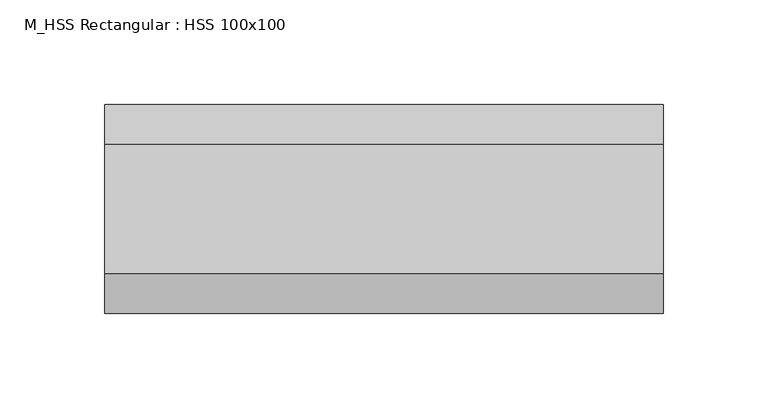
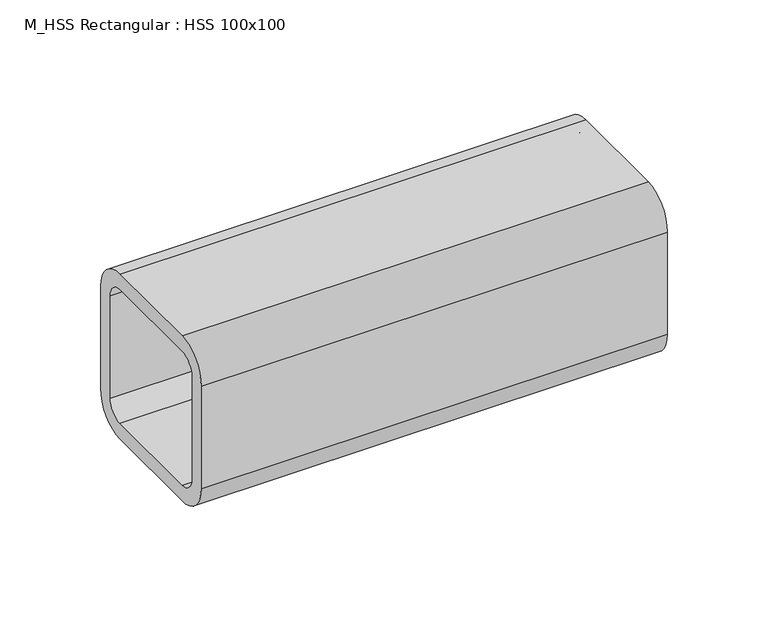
"""IFC4 building model written with IfcOpenShell, lengths in millimetres: beam geometry, M_HSS Rectangular : HSS 100x100."""

from ifc_helpers import new_model, si_unit, point, frame, frame_2d, origin, place, context, project, spatial, polyline, circle_curve, trimmed, segment, composite_curve, outline, extrude, source, transform, mapped, element, save


def m_hss_rectangular_hss_100x100_b606dcef(model_context):
    return source(origin(), model_context, "Body", "SweptSolid", [
        extrude(outline(composite_curve([segment(polyline([(50.0, 30.94), (50.0, -30.94)]), True, "CONTINUOUS"), segment(trimmed(circle_curve(frame_2d((30.94, -30.94)), 19.06), [point((50.0, -30.94))], [point((30.94, -50.0))], False, "CARTESIAN"), True, "CONTINUOUS"), segment(polyline([(30.94, -50.0), (-30.94, -50.0)]), True, "CONTINUOUS"), segment(trimmed(circle_curve(frame_2d((-30.94, -30.94)), 19.06), [point((-30.94, -50.0))], [point((-50.0, -30.94))], False, "CARTESIAN"), True, "CONTINUOUS"), segment(polyline([(-50.0, -30.94), (-50.0, 30.94)]), True, "CONTINUOUS"), segment(trimmed(circle_curve(frame_2d((-30.94, 30.94)), 19.06), [point((-50.0, 30.94))], [point((-30.94, 50.0))], False, "CARTESIAN"), True, "CONTINUOUS"), segment(polyline([(-30.94, 50.0), (30.94, 50.0)]), True, "CONTINUOUS"), segment(trimmed(circle_curve(frame_2d((30.94, 30.94)), 19.06), [point((30.94, 50.0))], [point((50.0, 30.94))], False, "CARTESIAN"), True, "CONTINUOUS")], self_intersect=False), holes=[composite_curve([segment(trimmed(circle_curve(frame_2d((-30.94, 30.94)), 9.53), [point((-30.94, 40.47))], [point((-40.47, 30.94))], True, "CARTESIAN"), True, "CONTINUOUS"), segment(polyline([(-40.47, 30.94), (-40.47, -30.94)]), True, "CONTINUOUS"), segment(trimmed(circle_curve(frame_2d((-30.94, -30.94)), 9.53), [point((-40.47, -30.94))], [point((-30.94, -40.47))], True, "CARTESIAN"), True, "CONTINUOUS"), segment(polyline([(-30.94, -40.47), (30.94, -40.47)]), True, "CONTINUOUS"), segment(trimmed(circle_curve(frame_2d((30.94, -30.94)), 9.53), [point((30.94, -40.47))], [point((40.47, -30.94))], True, "CARTESIAN"), True, "CONTINUOUS"), segment(polyline([(40.47, -30.94), (40.47, 30.94)]), True, "CONTINUOUS"), segment(trimmed(circle_curve(frame_2d((30.94, 30.94)), 9.53), [point((40.47, 30.94))], [point((30.94, 40.47))], True, "CARTESIAN"), True, "CONTINUOUS"), segment(polyline([(30.94, 40.47), (-30.94, 40.47)]), True, "CONTINUOUS")], self_intersect=False)]), frame((-127.15, 0.0, 0.0), z_axis=(1.0, 0.0, 0.0), x_axis=(0.0, 1.0, 0.0)), (0.0, 0.0, 1.0), 267.2),
    ])


if __name__ == "__main__":
    model = new_model("IFC4")
    model_context = context("Model", 3, world=origin())
    ifc_project = project(units=[si_unit("LENGTHUNIT", "METRE", prefix="MILLI")], contexts=[model_context])
    site = spatial("IfcSite", under=ifc_project)
    building = spatial("IfcBuilding", under=site)
    placement = place(None, origin())
    m_hss_rectangular_hss_100x100_shape = m_hss_rectangular_hss_100x100_b606dcef(model_context)
    element("IfcBeam", 1, ObjectType="M_HSS Rectangular : HSS 100x100", at=placement, inside=building, context=model_context, shape_type="MappedRepresentation", body=[
        mapped(m_hss_rectangular_hss_100x100_shape, transform((0.0, 0.0, 0.0), x_axis=(1.0, 0.0, 0.0), y_axis=(0.0, 1.0, 0.0), z_axis=(0.0, 0.0, 1.0))),
    ])
    save(model, "model.ifc")
